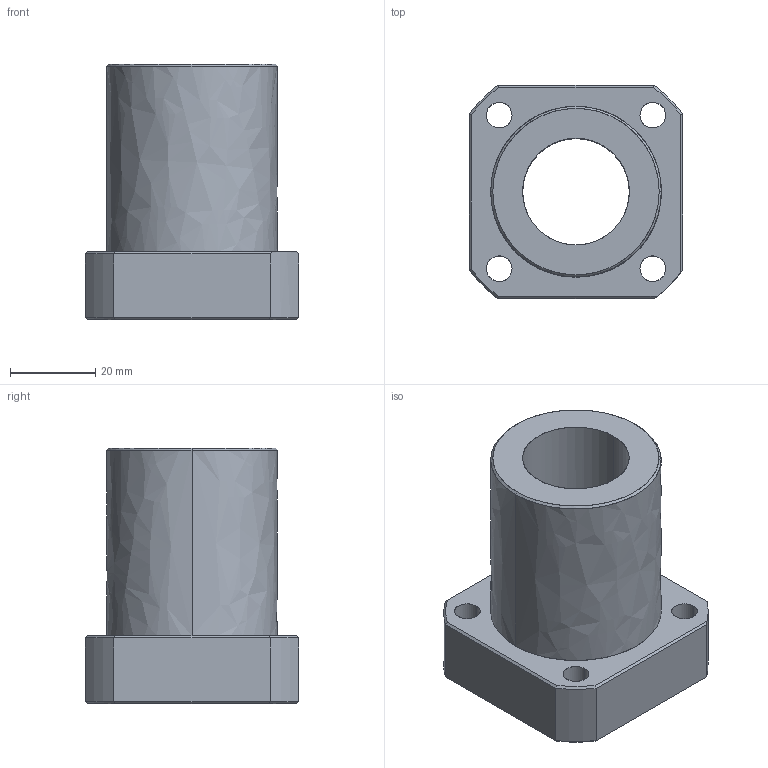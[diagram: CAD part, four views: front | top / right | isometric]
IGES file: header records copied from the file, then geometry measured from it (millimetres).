
Global section: file name: No Iges File Name specified; native system: AutoDesk Inventor R10; preprocessor: AutoDesk Inventor Iges Exporter R10; author: No Author specified; organization: No Organization specified; date: 20101214.155131; units: millimetre
Bounding box: 50 x 50 x 60 mm (x, y, z)
Surface area: 17912.8 mm2 (no closed solid volume)
Topology: 0 solids, 0 shells, 62 faces, 440 edges, 440 vertices
Faces by surface type: bspline 62
